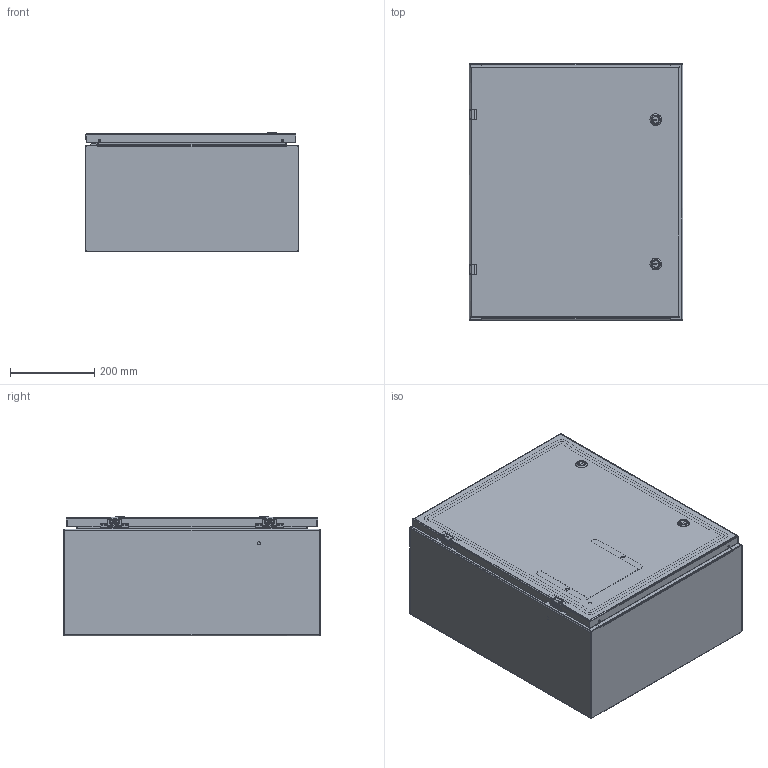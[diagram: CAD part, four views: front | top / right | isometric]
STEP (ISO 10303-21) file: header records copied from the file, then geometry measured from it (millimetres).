
FILE_DESCRIPTION((''),'2;1');
FILE_NAME('MODEL-305_ASM','2025-02-18T12:54:16',('joshi'),('SAGINAW CONTROL & ENGINEERING'),'CREO PARAMETRIC BY PTC INC, 2021284','CREO PARAMETRIC BY PTC INC, 2021284','');
FILE_SCHEMA(('AUTOMOTIVE_DESIGN { 1 0 10303 214 1 1 1 1 }'));
Length unit declared in the file: inch
Products named in the file (29): MODEL-305-BDY; MODEL-305-TP; MODEL-305-BTM; MODEL-305-DR; 100837; 100882; 111541; 100794_SHAFT; 100794_INSERT; 100794_CAM; 100794_NUT; 100794_SCREW; 100794_ASM; MODEL-305-DOOR-GASKET; 126391; 126391_ASM; 126393; 102483; 101226; 101376; 102140; 132757; MODEL-305-DOOR-ASSY_ASM; 101653; 122191; SUBPANEL; 100904; SUBPANEL-SUBASSEMBLY_ASM; MODEL-305_ASM
Assembly tree (50 placements, depth 4):
  MODEL-305_ASM
    MODEL-305-BDY
    MODEL-305-TP
    MODEL-305-BTM
    MODEL-305-DOOR-ASSY_ASM
      MODEL-305-DR
      100837  x3
      100882  x2
      111541
      100794_ASM  x2
        100794_SHAFT
        100794_INSERT
        100794_CAM
        100794_NUT
        100794_SCREW
      MODEL-305-DOOR-GASKET
      126391_ASM  x2
        126391
      126393  x2
      102483  x6
      101226  x2
      101376  x2
      102140  x2
      132757  x2
    100837
    101653  x4
    122191
    SUBPANEL-SUBASSEMBLY_ASM
      SUBPANEL
      100904  x4
Bounding box: 508 x 609.6 x 285.13 mm (x, y, z)
Volume: 3618914.4 mm3; surface area: 3343750.3 mm2
Topology: 51 solids, 51 shells, 3039 faces, 7700 edges, 4834 vertices
Faces by surface type: plane 1354, cylinder 847, bspline 436, torus 222, cone 124, sphere 56
Entity records: 84237 total; most frequent: CARTESIAN_POINT 24369, ORIENTED_EDGE 8616, DIRECTION 8160, PRESENTATION_STYLE_ASSIGNMENT 4506, EDGE_CURVE 4308, STYLED_ITEM 4231, CURVE_STYLE 4146, AXIS2_PLACEMENT_3D 2994
